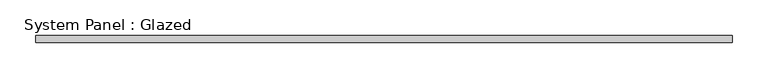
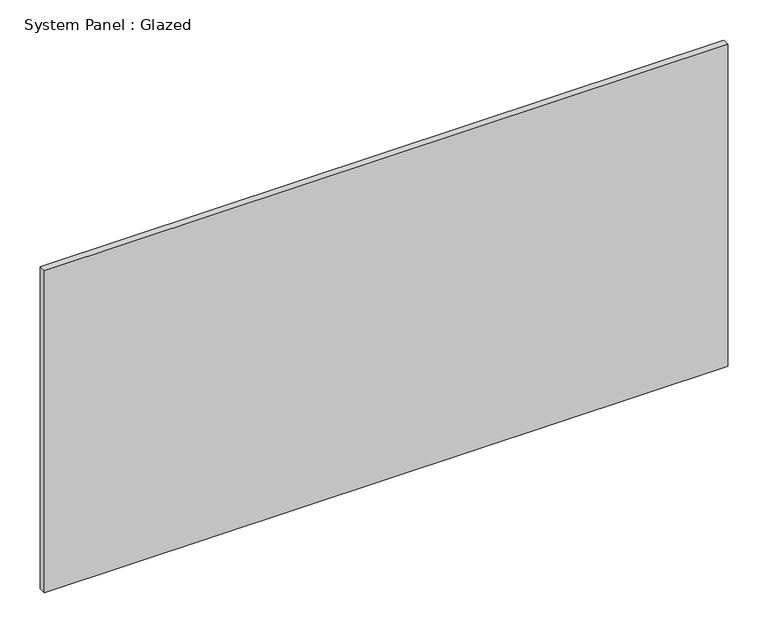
"""IFC4 building model written with IfcOpenShell, lengths in millimetres: plate geometry, System Panel : Glazed."""

import ifcopenshell
import ifcopenshell.guid

model = None  # the IFC model being written
_history = None  # IfcOwnerHistory: only IFC2X3 demands one
_inside = {}  # id of a spatial element -> (the spatial element, [elements in it])
_under = {}  # id of a project, library or spatial element -> (it, [spatial elements below it])
_declared = {}  # id of a project -> (the project, [libraries it declares])
_typed = {}  # id of a type object -> (the type object, [elements of that type])
_made_of = {}  # id of a material, layer set ... -> (it, [elements and type objects made of it])


def new_model(schema):
    """Start an empty IFC model of exactly this schema.

    Asked for "IFC4X3", IfcOpenShell would pick the latest addendum, in which some entities
    have other attributes; the version numbers below select the first issue.
    IFC2X3 requires an IfcOwnerHistory on every rooted entity: one is made here for all.
    """
    global model, _history
    if schema == "IFC4X3":
        model = ifcopenshell.file(schema_version=(4, 3, 0, 0))
    else:
        model = ifcopenshell.file(schema=schema)
    _inside.clear()
    _under.clear()
    _declared.clear()
    _typed.clear()
    _made_of.clear()
    _history = None
    if model.schema == "IFC2X3":
        org = make("IfcOrganization", Name="unknown")
        user = make(
            "IfcPersonAndOrganization",
            ThePerson=make("IfcPerson", FamilyName="unknown"),
            TheOrganization=org,
        )
        app = make(
            "IfcApplication",
            ApplicationDeveloper=org,
            Version="unknown",
            ApplicationFullName="unknown",
            ApplicationIdentifier="unknown",
        )
        _history = make(
            "IfcOwnerHistory",
            OwningUser=user,
            OwningApplication=app,
            ChangeAction="ADDED",
            CreationDate=0,
        )
    return model


def make(cls, **values):
    """One entity of the class cls with the attributes given. An attribute that is None is left unset."""
    return model.create_entity(
        cls, **{name: value for name, value in values.items() if value is not None}
    )


def rooted(cls, **values):
    """An entity with a GlobalId (a new one), such as an element, a storey or a relation."""
    return make(cls, GlobalId=ifcopenshell.guid.new(), OwnerHistory=_history, **values)


def si_unit(unit_type, name, prefix=None):
    """IfcSIUnit, for example si_unit("LENGTHUNIT", "METRE", prefix="MILLI")."""
    return make("IfcSIUnit", UnitType=unit_type, Prefix=prefix, Name=name)


def assignment(units):
    """IfcUnitAssignment: the units of a project."""
    return None if units is None else make("IfcUnitAssignment", Units=units)


def point(xyz):
    """IfcCartesianPoint."""
    return None if xyz is None else make("IfcCartesianPoint", Coordinates=xyz)


def direction(xyz):
    """IfcDirection."""
    return None if xyz is None else make("IfcDirection", DirectionRatios=xyz)


def frame(location, z_axis=None, x_axis=None):
    """IfcAxis2Placement3D, a coordinate frame: its origin and axes. An axis left out is left unset."""
    return make(
        "IfcAxis2Placement3D",
        Location=point(location),
        Axis=direction(z_axis),
        RefDirection=direction(x_axis),
    )


def origin():
    """The frame at (0, 0, 0) with its axes left unset."""
    return frame((0.0, 0.0, 0.0))


def origin_with_axes():
    """The frame at (0, 0, 0) with the z axis (0, 0, 1) and the x axis (1, 0, 0) written out."""
    return frame((0.0, 0.0, 0.0), z_axis=(0.0, 0.0, 1.0), x_axis=(1.0, 0.0, 0.0))


def place(relative_to, where):
    """IfcLocalPlacement: puts the frame where relative to a parent placement (None: the world)."""
    return make(
        "IfcLocalPlacement", PlacementRelTo=relative_to, RelativePlacement=where
    )


def context(
    kind, dimensions, precision=None, world=None, true_north=None, identifier=None
):
    """IfcGeometricRepresentationContext, for example the 3D "Model" context."""
    return make(
        "IfcGeometricRepresentationContext",
        ContextIdentifier=identifier,
        ContextType=kind,
        CoordinateSpaceDimension=dimensions,
        Precision=precision,
        WorldCoordinateSystem=world,
        TrueNorth=true_north,
    )


def project(units=None, contexts=None):
    """IfcProject with its units and contexts."""
    return rooted(
        "IfcProject",
        Name="project",
        RepresentationContexts=contexts,
        UnitsInContext=assignment(units),
    )


def spatial(cls, under=None, at=None, **own):
    """A site, building, storey or space (cls), placed at a placement, below another one or the project."""
    s = rooted(cls, ObjectPlacement=at, **own)
    if under is not None:
        _under.setdefault(under.id(), (under, []))[1].append(s)
    return s


def polyline(points):
    """IfcPolyline through the points."""
    return make("IfcPolyline", Points=[point(p) for p in points])


def outline(outer, holes=None, kind="AREA"):
    """IfcArbitraryClosedProfileDef: a profile drawn as a closed curve; with holes, ...WithVoids."""
    if holes is None:
        return make("IfcArbitraryClosedProfileDef", ProfileType=kind, OuterCurve=outer)
    return make(
        "IfcArbitraryProfileDefWithVoids",
        ProfileType=kind,
        OuterCurve=outer,
        InnerCurves=holes,
    )


def extrude(swept, where, along, depth):
    """IfcExtrudedAreaSolid: the profile swept, set in the frame where, extruded along a direction by depth."""
    return make(
        "IfcExtrudedAreaSolid",
        SweptArea=swept,
        Position=where,
        ExtrudedDirection=direction(along),
        Depth=depth,
    )


def shape(context_of_items, identifier, shape_type, items):
    """IfcShapeRepresentation: the items that make up one representation, for example the "Body"."""
    return make(
        "IfcShapeRepresentation",
        ContextOfItems=context_of_items,
        RepresentationIdentifier=identifier,
        RepresentationType=shape_type,
        Items=items,
    )


def source(mapping_origin, context_of_items, identifier, shape_type, items):
    """IfcRepresentationMap: a shape defined once, which mapped items show again and again."""
    return make(
        "IfcRepresentationMap",
        MappingOrigin=mapping_origin,
        MappedRepresentation=shape(context_of_items, identifier, shape_type, items),
    )


def transform(
    local_origin,
    x_axis=None,
    y_axis=None,
    z_axis=None,
    scale=None,
    scale2=None,
    scale3=None,
    uniform=True,
):
    """IfcCartesianTransformationOperator3D, or its non-uniform kind. x_axis, y_axis, z_axis: its Axis1, 2, 3."""
    if uniform:
        return make(
            "IfcCartesianTransformationOperator3D",
            Axis1=direction(x_axis),
            Axis2=direction(y_axis),
            LocalOrigin=point(local_origin),
            Scale=scale,
            Axis3=direction(z_axis),
        )
    return make(
        "IfcCartesianTransformationOperator3DnonUniform",
        Axis1=direction(x_axis),
        Axis2=direction(y_axis),
        LocalOrigin=point(local_origin),
        Scale=scale,
        Axis3=direction(z_axis),
        Scale2=scale2,
        Scale3=scale3,
    )


def mapped(mapping_source, mapping_target):
    """IfcMappedItem: shows the shape of a source again, moved by a transform."""
    return make(
        "IfcMappedItem", MappingSource=mapping_source, MappingTarget=mapping_target
    )


def made_of(thing, what):
    """Note that an element or type object is made of a material, layer set ...; save() writes the relation."""
    if what is not None:
        _made_of.setdefault(what.id(), (what, []))[1].append(thing)
    return thing


def element(
    cls,
    number,
    at=None,
    inside=None,
    cuts=None,
    type_object=None,
    material=None,
    context=None,
    identifier="Body",
    shape_type=None,
    held_by="IfcProductDefinitionShape",
    body=None,
    shapes=None,
    **own,
):
    """One element of the class cls, such as IfcWall. Its Tag is "e" and its number.

    at: its placement. inside: the storey or other place that contains it. cuts: it is an
    opening in that element (IfcRelVoidsElement). A single representation is given by context,
    identifier, shape_type and body (its items); several are given by shapes. held_by: the class
    of the entity that holds the representations. save() writes the other relations.
    """
    e = rooted(cls, Tag="e%d" % number, ObjectPlacement=at, **own)
    if body is not None:
        shapes = [shape(context, identifier, shape_type, body)]
    if shapes is not None:
        e.Representation = make(held_by, Representations=shapes)
    if inside is not None:
        _inside.setdefault(inside.id(), (inside, []))[1].append(e)
    if cuts is not None:
        rooted(
            "IfcRelVoidsElement", RelatingBuildingElement=cuts, RelatedOpeningElement=e
        )
    if type_object is not None:
        _typed.setdefault(type_object.id(), (type_object, []))[1].append(e)
    return made_of(e, material)


def aggregate(whole, parts):
    """IfcRelAggregates: a whole, such as a stair, and the parts it consists of."""
    return rooted("IfcRelAggregates", RelatingObject=whole, RelatedObjects=parts)


def save(model, path):
    """Write the relations noted so far, then the file.

    IfcRelAggregates (storeys below a building ...), IfcRelContainedInSpatialStructure (elements
    in a storey), IfcRelDefinesByType, IfcRelAssociatesMaterial and IfcRelDeclares: one each for
    every whole, place, type object, material and project.
    """
    for whole, parts in _under.values():
        aggregate(whole, parts)
    for where, things in _inside.values():
        rooted(
            "IfcRelContainedInSpatialStructure",
            RelatedElements=things,
            RelatingStructure=where,
        )
    for kind, things in _typed.values():
        rooted("IfcRelDefinesByType", RelatedObjects=things, RelatingType=kind)
    for what, things in _made_of.values():
        rooted("IfcRelAssociatesMaterial", RelatedObjects=things, RelatingMaterial=what)
    for by, libraries in _declared.values():
        rooted("IfcRelDeclares", RelatingContext=by, RelatedDefinitions=libraries)
    model.write(path)


def system_panel_glazed_5dd8fc48(model_context):
    return source(origin(), model_context, "Body", "SweptSolid", [
        extrude(outline(polyline([(490.0715634, -5.0), (-490.0715634, -5.0), (-490.0715634, 5.0), (490.0715634, 5.0), (490.0715634, -5.0)])), origin_with_axes(), (0.0, 0.0, 1.0), 488.3333333),
    ])


if __name__ == "__main__":
    model = new_model("IFC4")
    model_context = context("Model", 3, world=origin())
    ifc_project = project(units=[si_unit("LENGTHUNIT", "METRE", prefix="MILLI")], contexts=[model_context])
    site = spatial("IfcSite", under=ifc_project)
    building = spatial("IfcBuilding", under=site)
    placement = place(None, origin())
    system_panel_glazed_shape = system_panel_glazed_5dd8fc48(model_context)
    element("IfcPlate", 1, ObjectType="System Panel : Glazed", at=placement, inside=building, context=model_context, shape_type="MappedRepresentation", body=[
        mapped(system_panel_glazed_shape, transform((0.0, 0.0, 0.0), x_axis=(1.0, 0.0, 0.0), y_axis=(0.0, 1.0, 0.0), z_axis=(0.0, 0.0, 1.0))),
    ])
    save(model, "model.ifc")
